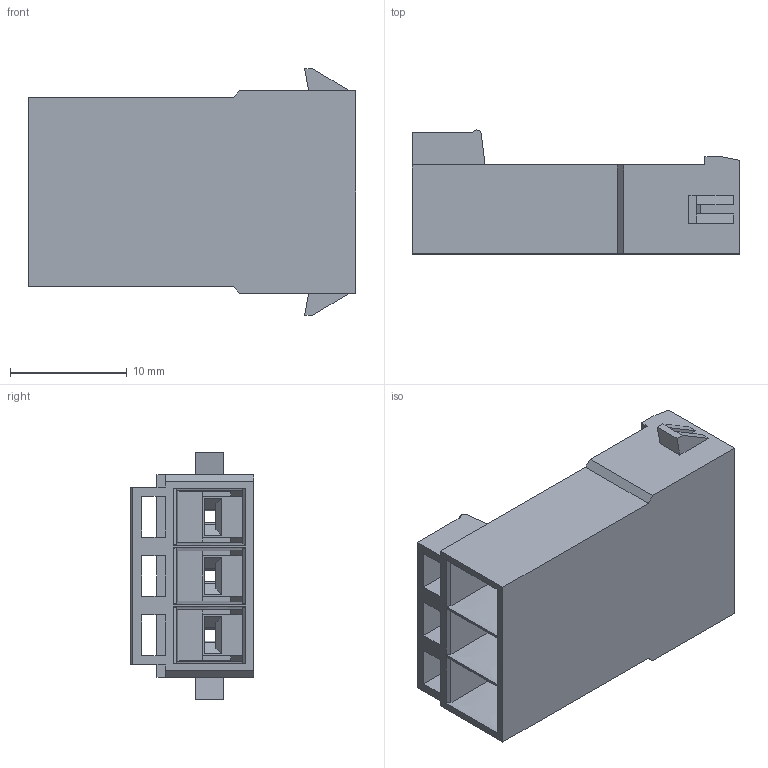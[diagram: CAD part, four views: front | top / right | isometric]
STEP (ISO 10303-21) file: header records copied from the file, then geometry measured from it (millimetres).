
FILE_DESCRIPTION((''),'2;1');
FILE_NAME('3PIN_ASM','2021-05-13T',('chenbo'),(''),'CREO PARAMETRIC BY PTC INC, 2016260','CREO PARAMETRIC BY PTC INC, 2016260','');
FILE_SCHEMA(('CONFIG_CONTROL_DESIGN'));
Length unit declared in the file: millimetre
Products named in the file (2): BODY; 3PIN_ASM
Assembly tree (1 placements, depth 2):
  3PIN_ASM
    BODY
Bounding box: 28.1 x 10.6 x 21.14 mm (x, y, z)
Volume: 1618.7 mm3; surface area: 3611.5 mm2
Topology: 1 solids, 1 shells, 262 faces, 719 edges, 468 vertices
Faces by surface type: plane 231, cylinder 10, cone 9, bspline 6, torus 6
Entity records: 8943 total; most frequent: CARTESIAN_POINT 2238, ORIENTED_EDGE 1438, DIRECTION 1254, EDGE_CURVE 719, VECTOR 642, LINE 642, VERTEX_POINT 468, AXIS2_PLACEMENT_3D 306
